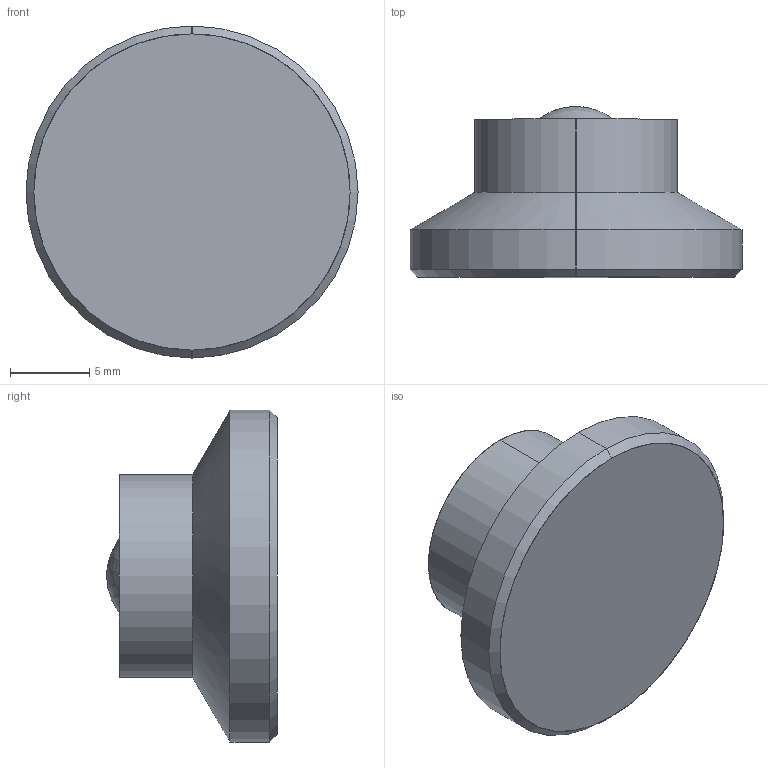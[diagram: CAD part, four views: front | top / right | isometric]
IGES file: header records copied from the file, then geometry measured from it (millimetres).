
Start section: SolidWorks IGES file using analytic representation for surfaces
Global section: file name: C:\Documents and Settings\IanO.IANOHOME\My Documents\Wix and Auto CAD Work\CAD Models\Parametric Models\Wix Models\34530\34530_IGES\Default.igs; native system: SolidWorks 2009; preprocessor: SolidWorks 2009; author: IanO; date: 110803.110551; units: millimetre
Bounding box: 21 x 10.8 x 21 mm (x, y, z)
Surface area: 1328.2 mm2 (no closed solid volume)
Topology: 0 solids, 0 shells, 14 faces, 180 edges, 176 vertices
Faces by surface type: revolution 12, bspline 2
